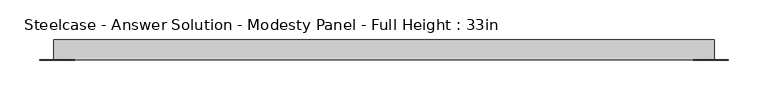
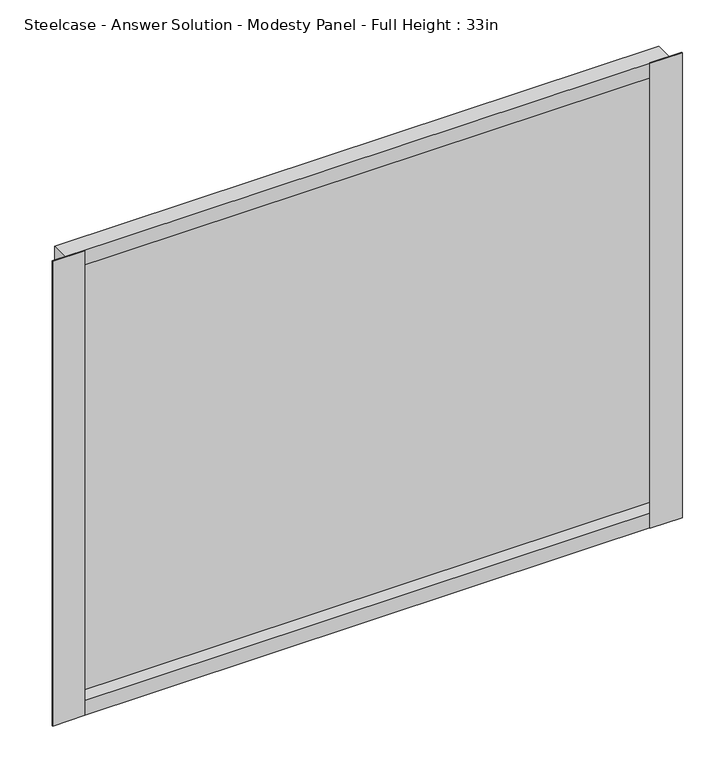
"""IFC4 building model written with IfcOpenShell, lengths in millimetres: furniture geometry, Steelcase - Answer Solution - Modesty Panel - Full Height : 33in."""

from ifc_helpers import new_model, si_unit, frame, origin, place, context, project, spatial, polyline, outline, extrude, faceted_brep, source, transform, mapped, element, save


def steelcase_answer_solution_modesty_panel_full_height_33in_8d54a0c3(model_context):
    return source(origin(), model_context, "Body", "SolidModel", [
        extrude(outline(polyline([(1381.7400478, -14.2668826), (1381.7400478, -15.0593624), (1337.3248254, -15.0593624), (1337.3248254, -14.2668826), (1381.7400478, -14.2668826)])), frame((0.0, 0.0, 17.653), z_axis=(0.0, 0.0, 1.0), x_axis=(1.0, 0.0, 0.0)), (0.0, 0.0, 1.0), 678.18),
        extrude(outline(polyline([(556.9673392, -14.2668826), (556.9673392, -15.0593624), (512.5520826, -15.0593624), (512.5520826, -14.2668826), (556.9673392, -14.2668826)])), frame((0.0, 0.0, 17.653), z_axis=(0.0, 0.0, 1.0), x_axis=(1.0, 0.0, 0.0)), (0.0, 0.0, 1.0), 678.18),
        faceted_brep([(530.0780827, 10.9045177, 17.653), (530.0780827, -14.2668826, 17.653), (530.0780827, -14.2668826, 695.833), (530.0780827, 10.9045177, 695.833), (1364.2140827, -14.2668826, 17.653), (1364.2140827, 10.9045177, 17.653), (1364.2140827, 10.9045177, 695.833), (1364.2140827, -14.2668826, 695.833), (1363.4216165, 4.7831174, 39.243), (530.8705628, 4.7831174, 39.243), (530.8705628, -14.2668826, 39.243), (1363.4216165, -14.2668826, 39.243), (530.8705628, -14.2668826, 674.243), (1363.4216165, -14.2668826, 674.243), (530.8705628, 4.7831174, 674.243), (1363.4216165, 4.7831174, 674.243)], [[[0, 1, 2, 3]], [[4, 5, 6, 7]], [[8, 9, 10, 11]], [[0, 3, 6, 5]], [[4, 1, 0, 5]], [[2, 1, 4, 7], [10, 12, 13, 11]], [[3, 2, 7, 6]], [[14, 15, 13, 12]], [[9, 8, 15, 14]], [[12, 10, 9, 14]], [[11, 13, 15, 8]]]),
    ])


if __name__ == "__main__":
    model = new_model("IFC4")
    model_context = context("Model", 3, world=origin())
    ifc_project = project(units=[si_unit("LENGTHUNIT", "METRE", prefix="MILLI")], contexts=[model_context])
    site = spatial("IfcSite", under=ifc_project)
    building = spatial("IfcBuilding", under=site)
    placement = place(None, origin())
    steelcase_answer_solution_modesty_panel_full_height_33in_shape = steelcase_answer_solution_modesty_panel_full_height_33in_8d54a0c3(model_context)
    element("IfcFurniture", 1, ObjectType="Steelcase - Answer Solution - Modesty Panel - Full Height : 33in", at=placement, inside=building, context=model_context, shape_type="MappedRepresentation", body=[
        mapped(steelcase_answer_solution_modesty_panel_full_height_33in_shape, transform((0.0, 0.0, 0.0), x_axis=(1.0, 0.0, 0.0), y_axis=(0.0, 1.0, 0.0), z_axis=(0.0, 0.0, 1.0))),
    ])
    save(model, "model.ifc")
